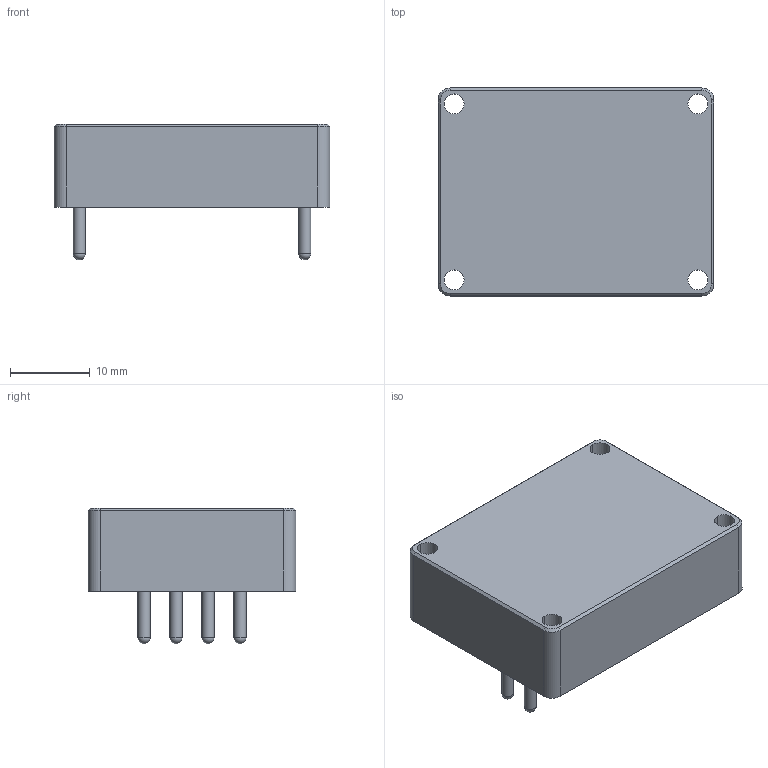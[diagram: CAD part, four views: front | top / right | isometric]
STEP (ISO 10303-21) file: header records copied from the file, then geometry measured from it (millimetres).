
FILE_DESCRIPTION(('FreeCAD Model'),'2;1');
FILE_NAME('D:/prj/summit/everest/mechanics/New folder/EVE-CORE-bo.step', '2019-04-15T19:37:36',('Author'),(''), 'Open CASCADE STEP processor 7.2','FreeCAD','Unknown');
FILE_SCHEMA(('AUTOMOTIVE_DESIGN { 1 0 10303 214 1 1 1 1 }'));
Length unit declared in the file: millimetre
Products named in the file (69): PCB; Board; Free_Models; i044_01H1_3D; Board001; P3; _210665088; Sphere004; _210664896; Cylinder008; _210664704; Cylinder009; P6; _210665088001; _210664896001; _210664704001; P5; _210665088002; _210664896002; _210664704002; P7; _210665088003; _210664896003; _210664704003; P2; _210665088004; _210664896004; _210664704004; i044-01M4; i050A_H2; Board002; R19; R_0402; ORIGIN1; _510808896; Sphere005; C99; _510811200; Extruded015; _510811008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
Assembly tree (91 placements, depth 6):
  PCB
    Board
    Free_Models
      i044_01H1_3D
        Board001
        P3
          _210665088
            Sphere004
          _210664896
            Cylinder008
          _210664704
            Cylinder009
        P6
          _210665088001
            Sphere004
          _210664896001
            Cylinder008
          _210664704001
            Cylinder009
        P5
          _210665088002
            Sphere004
          _210664896002
            Cylinder008
          _210664704002
            Cylinder009
        P7
          _210665088003
            Sphere004
          _210664896003
            Cylinder008
          _210664704003
            Cylinder009
        P2
          _210665088004
            Sphere004
          _210664896004
            Cylinder008
          _210664704004
            Cylinder009
      i044-01M4
      i050A_H2
        Board002
        R19
          R_0402
        ORIGIN1
          _510808896
            Sphere005
        C99
          _510811200
            Extruded015
          _510811008
            Extruded014
          _510811200001
            Extruded015
        C1
          _510811200002
            Extruded015
          _510811008001
            Extruded014
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Bounding box: 34.5 x 26 x 17 mm (x, y, z)
Volume: 4468.7 mm3; surface area: 9505.1 mm2
Topology: 39 solids, 39 shells, 7613 faces, 21533 edges, 14135 vertices
Faces by surface type: plane 6455, cylinder 1140, cone 12, sphere 6
Full cylindrical faces by diameter (mm): 0.6 x4, 1 x1, 1.524 x5, 1.6 x13, 2.54 x5
Entity records: 523807 total; most frequent: CARTESIAN_POINT 91537, DIRECTION 80757, LINE 59530, VECTOR 59530, ORIENTED_EDGE 42718, PCURVE 42718, DEFINITIONAL_REPRESENTATION 42718, EDGE_CURVE 21359
